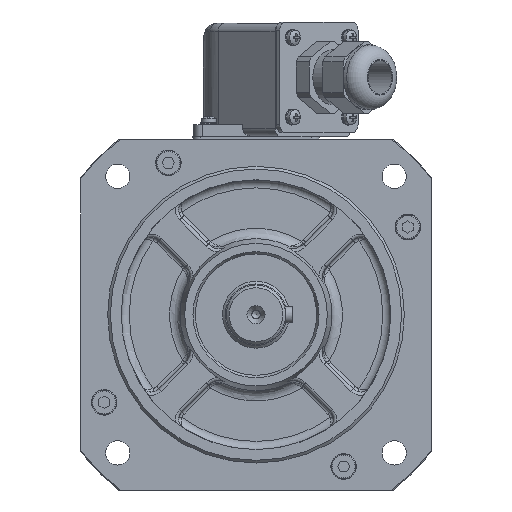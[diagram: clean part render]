
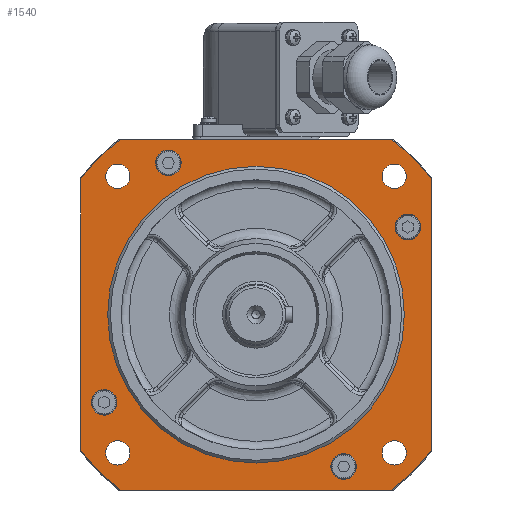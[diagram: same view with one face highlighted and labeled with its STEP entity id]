
A CAD part, front view. The second image highlights one B-rep face of the part: STEP entity #1540.
In plain terms, the highlighted planar face has unit normal (0, -1, 0).
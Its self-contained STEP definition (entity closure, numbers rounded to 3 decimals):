
#1540=ADVANCED_FACE('',(#4667,#4668,#4669,#4670,#4671,#4672,#4673,#4674,#4675,#4676),#4677,.T.);
#4667=FACE_BOUND('',#14202,.T.);
#4668=FACE_BOUND('',#14203,.T.);
#4669=FACE_BOUND('',#14204,.T.);
#4670=FACE_BOUND('',#14205,.T.);
#4671=FACE_BOUND('',#14206,.T.);
#4672=FACE_BOUND('',#14207,.T.);
#4673=FACE_BOUND('',#14208,.T.);
#4674=FACE_BOUND('',#14209,.T.);
#4675=FACE_BOUND('',#14210,.T.);
#4676=FACE_OUTER_BOUND('',#14211,.T.);
#4677=PLANE('',#14212);
#14202=EDGE_LOOP('',(#25751));
#14203=EDGE_LOOP('',(#25752));
#14204=EDGE_LOOP('',(#25753));
#14205=EDGE_LOOP('',(#25754));
#14206=EDGE_LOOP('',(#25755));
#14207=EDGE_LOOP('',(#25756));
#14208=EDGE_LOOP('',(#25757));
#14209=EDGE_LOOP('',(#25758));
#14210=EDGE_LOOP('',(#25759));
#14211=EDGE_LOOP('',(#25760,#25761,#25762,#25763,#25764,#25765,#25766,#25767));
#14212=AXIS2_PLACEMENT_3D('',#25768,#25769,#25770);
#25751=ORIENTED_EDGE('',*,*,#29580,.T.);
#25752=ORIENTED_EDGE('',*,*,#28156,.T.);
#25753=ORIENTED_EDGE('',*,*,#29593,.T.);
#25754=ORIENTED_EDGE('',*,*,#29577,.T.);
#25755=ORIENTED_EDGE('',*,*,#26096,.T.);
#25756=ORIENTED_EDGE('',*,*,#26050,.T.);
#25757=ORIENTED_EDGE('',*,*,#29578,.T.);
#25758=ORIENTED_EDGE('',*,*,#29579,.T.);
#25759=ORIENTED_EDGE('',*,*,#28155,.T.);
#25760=ORIENTED_EDGE('',*,*,#28189,.T.);
#25761=ORIENTED_EDGE('',*,*,#28470,.T.);
#25762=ORIENTED_EDGE('',*,*,#25984,.T.);
#25763=ORIENTED_EDGE('',*,*,#27308,.T.);
#25764=ORIENTED_EDGE('',*,*,#29574,.T.);
#25765=ORIENTED_EDGE('',*,*,#26774,.T.);
#25766=ORIENTED_EDGE('',*,*,#29575,.T.);
#25767=ORIENTED_EDGE('',*,*,#28325,.T.);
#25768=CARTESIAN_POINT('',(0.,-129.0,82.5));
#25769=DIRECTION('',(0.,-1.0,0.));
#25770=DIRECTION('',(-1.0,0.,0.0));
#25984=EDGE_CURVE('',#29858,#29859,#29860,.T.);
#26050=EDGE_CURVE('',#29980,#29980,#29981,.T.);
#26096=EDGE_CURVE('',#30060,#30060,#30061,.T.);
#26774=EDGE_CURVE('',#31341,#31339,#31342,.T.);
#27308=EDGE_CURVE('',#29859,#32273,#32275,.T.);
#28155=EDGE_CURVE('',#33646,#33646,#33647,.T.);
#28156=EDGE_CURVE('',#33648,#33648,#33649,.T.);
#28189=EDGE_CURVE('',#33693,#33691,#33694,.T.);
#28325=EDGE_CURVE('',#33904,#33693,#33905,.T.);
#28470=EDGE_CURVE('',#33691,#29858,#34119,.T.);
#29574=EDGE_CURVE('',#32273,#31341,#35812,.T.);
#29575=EDGE_CURVE('',#31339,#33904,#35813,.T.);
#29577=EDGE_CURVE('',#35815,#35815,#35816,.T.);
#29578=EDGE_CURVE('',#35817,#35817,#35818,.T.);
#29579=EDGE_CURVE('',#35819,#35819,#35820,.T.);
#29580=EDGE_CURVE('',#35821,#35821,#35822,.T.);
#29593=EDGE_CURVE('',#35835,#35835,#35836,.T.);
#29858=VERTEX_POINT('',#36045);
#29859=VERTEX_POINT('',#36046);
#29860=CIRCLE('',#36047,82.2);
#29980=VERTEX_POINT('',#36765);
#29981=CIRCLE('',#36766,4.5);
#30060=VERTEX_POINT('',#37102);
#30061=CIRCLE('',#37103,4.5);
#31339=VERTEX_POINT('',#39155);
#31341=VERTEX_POINT('',#39157);
#31342=LINE('',#39158,#39159);
#32273=VERTEX_POINT('',#41415);
#32275=LINE('',#41417,#41418);
#33646=VERTEX_POINT('',#43880);
#33647=CIRCLE('',#43881,4.75);
#33648=VERTEX_POINT('',#43882);
#33649=CIRCLE('',#43883,4.75);
#33691=VERTEX_POINT('',#44543);
#33693=VERTEX_POINT('',#44545);
#33694=CIRCLE('',#44546,82.2);
#33904=VERTEX_POINT('',#44903);
#33905=LINE('',#44904,#44905);
#34119=LINE('',#45215,#45216);
#35812=CIRCLE('',#48031,82.2);
#35813=CIRCLE('',#48032,82.2);
#35815=VERTEX_POINT('',#48034);
#35816=CIRCLE('',#48035,4.5);
#35817=VERTEX_POINT('',#48036);
#35818=CIRCLE('',#48037,4.5);
#35819=VERTEX_POINT('',#48038);
#35820=CIRCLE('',#48039,4.75);
#35821=VERTEX_POINT('',#48040);
#35822=CIRCLE('',#48041,4.75);
#35835=VERTEX_POINT('',#48174);
#35836=CIRCLE('',#48175,55.0);
#36045=CARTESIAN_POINT('',(65.0,-129.0,50.317));
#36046=CARTESIAN_POINT('',(50.317,-129.0,65.0));
#36047=AXIS2_PLACEMENT_3D('',#48287,#48288,#48289);
#36765=CARTESIAN_POINT('',(-51.265,-129.0,55.765));
#36766=AXIS2_PLACEMENT_3D('',#48371,#48372,#48373);
#37102=CARTESIAN_POINT('',(55.765,-129.0,51.265));
#37103=AXIS2_PLACEMENT_3D('',#48461,#48462,#48463);
#39155=CARTESIAN_POINT('',(-65.0,-129.0,-50.317));
#39157=CARTESIAN_POINT('',(-65.0,-129.0,50.317));
#39158=CARTESIAN_POINT('',(-65.0,-129.0,82.5));
#39159=VECTOR('',#49641,1.0);
#41415=CARTESIAN_POINT('',(-50.317,-129.0,65.0));
#41417=CARTESIAN_POINT('',(0.,-129.0,65.0));
#41418=VECTOR('',#50527,1.0);
#43880=CARTESIAN_POINT('',(-32.5,-129.0,61.042));
#43881=AXIS2_PLACEMENT_3D('',#52065,#52066,#52067);
#43882=CARTESIAN_POINT('',(61.042,-129.0,32.5));
#43883=AXIS2_PLACEMENT_3D('',#52068,#52069,#52070);
#44543=CARTESIAN_POINT('',(65.0,-129.0,-50.317));
#44545=CARTESIAN_POINT('',(50.317,-129.0,-65.0));
#44546=AXIS2_PLACEMENT_3D('',#52117,#52118,#52119);
#44903=CARTESIAN_POINT('',(-50.317,-129.0,-65.0));
#44904=CARTESIAN_POINT('',(0.,-129.0,-65.0));
#44905=VECTOR('',#52335,1.0);
#45215=CARTESIAN_POINT('',(65.0,-129.0,82.5));
#45216=VECTOR('',#52576,1.0);
#48031=AXIS2_PLACEMENT_3D('',#54611,#54612,#54613);
#48032=AXIS2_PLACEMENT_3D('',#54614,#54615,#54616);
#48034=CARTESIAN_POINT('',(51.265,-129.0,-55.765));
#48035=AXIS2_PLACEMENT_3D('',#54620,#54621,#54622);
#48036=CARTESIAN_POINT('',(-55.765,-129.0,-51.265));
#48037=AXIS2_PLACEMENT_3D('',#54623,#54624,#54625);
#48038=CARTESIAN_POINT('',(32.5,-129.0,-61.042));
#48039=AXIS2_PLACEMENT_3D('',#54626,#54627,#54628);
#48040=CARTESIAN_POINT('',(-61.042,-129.0,-32.5));
#48041=AXIS2_PLACEMENT_3D('',#54629,#54630,#54631);
#48174=CARTESIAN_POINT('',(-55.0,-129.0,0.));
#48175=AXIS2_PLACEMENT_3D('',#54647,#54648,#54649);
#48287=CARTESIAN_POINT('',(0.,-129.0,0.));
#48288=DIRECTION('',(0.,-1.0,0.));
#48289=DIRECTION('',(1.0,0.,0.0));
#48371=CARTESIAN_POINT('',(-51.265,-129.0,51.265));
#48372=DIRECTION('',(0.,1.0,0.));
#48373=DIRECTION('',(0.,0.,1.0));
#48461=CARTESIAN_POINT('',(51.265,-129.0,51.265));
#48462=DIRECTION('',(0.,1.0,0.));
#48463=DIRECTION('',(1.0,0.,0.));
#49641=DIRECTION('',(0.,0.,-1.0));
#50527=DIRECTION('',(-1.0,0.,0.));
#52065=CARTESIAN_POINT('',(-32.5,-129.0,56.292));
#52066=DIRECTION('',(0.,1.0,0.));
#52067=DIRECTION('',(0.,0.,1.0));
#52068=CARTESIAN_POINT('',(56.292,-129.0,32.5));
#52069=DIRECTION('',(0.,1.0,0.));
#52070=DIRECTION('',(1.0,0.,0.));
#52117=CARTESIAN_POINT('',(0.,-129.0,0.));
#52118=DIRECTION('',(0.,-1.0,0.));
#52119=DIRECTION('',(1.0,0.,0.0));
#52335=DIRECTION('',(1.0,0.,0.));
#52576=DIRECTION('',(0.,0.,1.0));
#54611=CARTESIAN_POINT('',(0.,-129.0,0.));
#54612=DIRECTION('',(0.,-1.0,0.));
#54613=DIRECTION('',(1.0,0.,0.0));
#54614=CARTESIAN_POINT('',(0.,-129.0,0.));
#54615=DIRECTION('',(0.,-1.0,0.));
#54616=DIRECTION('',(1.0,0.,0.0));
#54620=CARTESIAN_POINT('',(51.265,-129.0,-51.265));
#54621=DIRECTION('',(0.,1.0,0.));
#54622=DIRECTION('',(0.,0.,-1.0));
#54623=CARTESIAN_POINT('',(-51.265,-129.0,-51.265));
#54624=DIRECTION('',(0.,1.0,0.));
#54625=DIRECTION('',(-1.0,0.,0.));
#54626=CARTESIAN_POINT('',(32.5,-129.0,-56.292));
#54627=DIRECTION('',(0.,1.0,0.));
#54628=DIRECTION('',(0.,0.,-1.0));
#54629=CARTESIAN_POINT('',(-56.292,-129.0,-32.5));
#54630=DIRECTION('',(0.,1.0,0.));
#54631=DIRECTION('',(-1.0,0.,0.));
#54647=CARTESIAN_POINT('',(0.,-129.0,0.));
#54648=DIRECTION('',(0.,1.0,0.));
#54649=DIRECTION('',(-1.0,0.,0.0));
